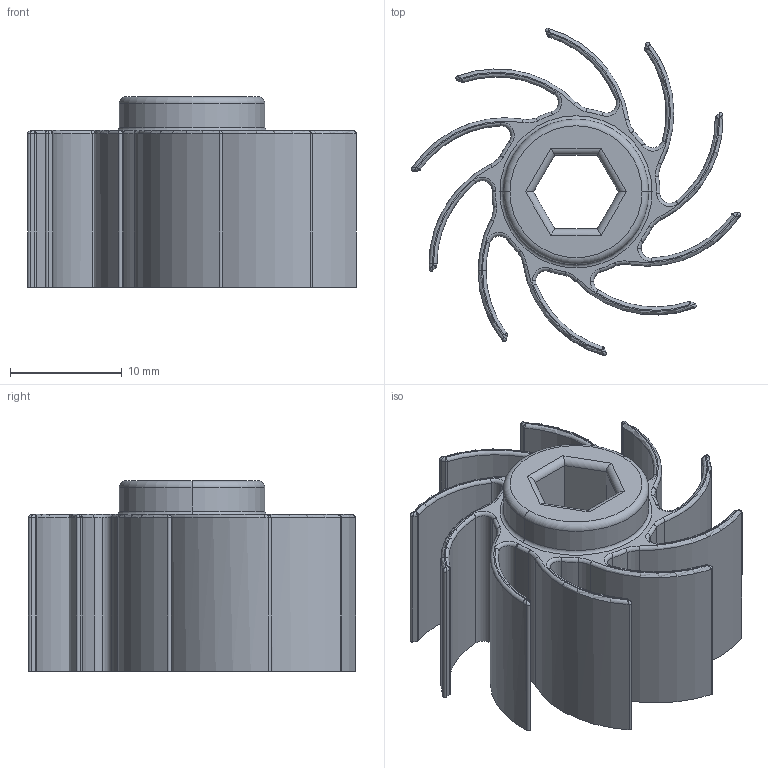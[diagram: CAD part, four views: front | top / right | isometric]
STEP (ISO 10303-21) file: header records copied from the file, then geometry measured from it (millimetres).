
FILE_DESCRIPTION (( 'STEP AP214' ), '1' );
FILE_NAME ('Torque-Rotor-0.7.STEP', '2020-05-03T10:33:39', ( 'Valera' ), ( '' ), 'SwSTEP 2.0', 'SolidWorks 2020', '' );
FILE_SCHEMA (( 'AUTOMOTIVE_DESIGN' ));
Length unit declared in the file: millimetre
Products named in the file (1): Torque-Rotor-0.7
Bounding box: 29.39 x 29.23 x 17 mm (x, y, z)
Volume: 3413.3 mm3; surface area: 4514 mm2
Topology: 1 solids, 1 shells, 209 faces, 525 edges, 300 vertices
Faces by surface type: cylinder 105, torus 64, plane 20, bspline 20
Entity records: 6903 total; most frequent: CARTESIAN_POINT 1963, DIRECTION 1125, ORIENTED_EDGE 1010, EDGE_CURVE 505, AXIS2_PLACEMENT_3D 486, VERTEX_POINT 300, CIRCLE 296, EDGE_LOOP 213
